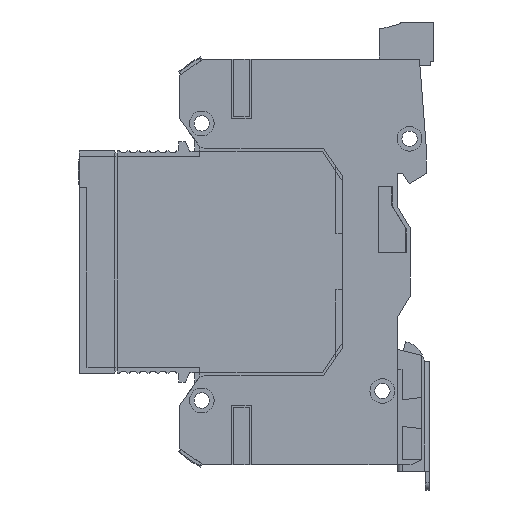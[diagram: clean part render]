
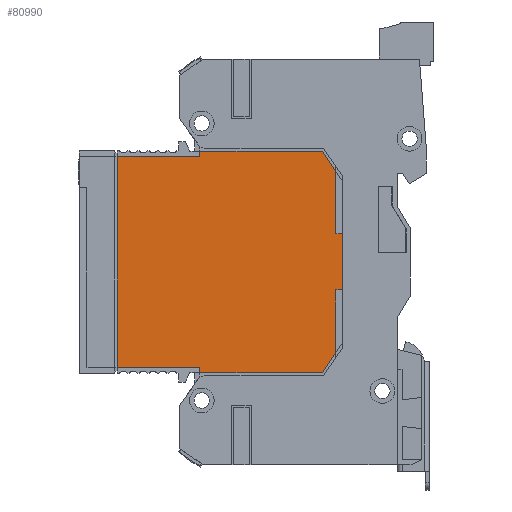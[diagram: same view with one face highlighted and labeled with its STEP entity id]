
A CAD part, left-side view. The second image highlights one B-rep face of the part: STEP entity #80990.
In plain terms, the highlighted planar face has unit normal (-1, 0, 0) as drawn and (0, -1, 0) by its records, which use the part's own axes.
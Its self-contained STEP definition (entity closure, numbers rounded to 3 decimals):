
#2383 = CARTESIAN_POINT ( 'NONE',  ( 0., 0., 0. ) ) ;
#7026 = VERTEX_POINT ( 'NONE', #30705 ) ;
#9236 = EDGE_CURVE ( 'NONE', #7026, #21747, #46483, .T. ) ;
#11044 = CARTESIAN_POINT ( 'NONE',  ( -21.3, 0., 25.15 ) ) ;
#14359 = DIRECTION ( 'NONE',  ( 0., 0., 1. ) ) ;
#16368 = VECTOR ( 'NONE', #14359, 1000. ) ;
#17955 = EDGE_CURVE ( 'NONE', #75193, #58470, #109535, .T. ) ;
#19041 = DIRECTION ( 'NONE',  ( 0., 0., 1. ) ) ;
#19133 = CARTESIAN_POINT ( 'NONE',  ( -22.4, 0., 22.45 ) ) ;
#20249 = CARTESIAN_POINT ( 'NONE',  ( -21.3, 0., -19.05 ) ) ;
#21747 = VERTEX_POINT ( 'NONE', #126690 ) ;
#23295 = CARTESIAN_POINT ( 'NONE',  ( 5.65, 0., 25.15 ) ) ;
#24598 = DIRECTION ( 'NONE',  ( 1., 0., 0. ) ) ;
#27894 = CARTESIAN_POINT ( 'NONE',  ( -21.3, 0., -25.15 ) ) ;
#28642 = CARTESIAN_POINT ( 'NONE',  ( -22.4, 0., 22.45 ) ) ;
#30705 = CARTESIAN_POINT ( 'NONE',  ( -5.65, 0., 26.55 ) ) ;
#31913 = VERTEX_POINT ( 'NONE', #115959 ) ;
#32686 = DIRECTION ( 'NONE',  ( 0., 0., -1. ) ) ;
#33957 = CARTESIAN_POINT ( 'NONE',  ( 21.3, 0., -2.35 ) ) ;
#34188 = VERTEX_POINT ( 'NONE', #28642 ) ;
#34837 = VECTOR ( 'NONE', #109020, 1000. ) ;
#35329 = VECTOR ( 'NONE', #117258, 1000. ) ;
#37586 = FACE_OUTER_BOUND ( 'NONE', #107148, .T. ) ;
#38396 = ORIENTED_EDGE ( 'NONE', *, *, #135819, .T. ) ;
#39295 = CARTESIAN_POINT ( 'NONE',  ( -18.3, 0., 25.15 ) ) ;
#42340 = DIRECTION ( 'NONE',  ( 1., 0., 0. ) ) ;
#42648 = ORIENTED_EDGE ( 'NONE', *, *, #117862, .F. ) ;
#42872 = VECTOR ( 'NONE', #19041, 1000. ) ;
#46302 = CARTESIAN_POINT ( 'NONE',  ( -21.3, 0., -19.05 ) ) ;
#46483 = LINE ( 'NONE', #131048, #34837 ) ;
#47282 = CARTESIAN_POINT ( 'NONE',  ( -22.4, 0., -2.35 ) ) ;
#48426 = VECTOR ( 'NONE', #59078, 1000. ) ;
#48630 = CARTESIAN_POINT ( 'NONE',  ( 5.65, 0., 26.55 ) ) ;
#48867 = CARTESIAN_POINT ( 'NONE',  ( 22.4, 0., 22.45 ) ) ;
#49471 = EDGE_CURVE ( 'NONE', #31913, #99761, #59673, .T. ) ;
#50197 = VERTEX_POINT ( 'NONE', #47282 ) ;
#50838 = EDGE_CURVE ( 'NONE', #34188, #95331, #121155, .T. ) ;
#52162 = CARTESIAN_POINT ( 'NONE',  ( -22.4, 0., -2.35 ) ) ;
#57098 = VERTEX_POINT ( 'NONE', #130061 ) ;
#58232 = VERTEX_POINT ( 'NONE', #119886 ) ;
#58470 = VERTEX_POINT ( 'NONE', #60912 ) ;
#59078 = DIRECTION ( 'NONE',  ( -1., 0., 0. ) ) ;
#59356 = VECTOR ( 'NONE', #91367, 1000. ) ;
#59673 = LINE ( 'NONE', #23295, #16368 ) ;
#60912 = CARTESIAN_POINT ( 'NONE',  ( 22.4, 0., 22.45 ) ) ;
#61894 = DIRECTION ( 'NONE',  ( 0., 0., 1. ) ) ;
#66372 = VECTOR ( 'NONE', #32686, 1000. ) ;
#66684 = LINE ( 'NONE', #11044, #91821 ) ;
#68085 = PLANE ( 'NONE',  #116663 ) ;
#68948 = VERTEX_POINT ( 'NONE', #119872 ) ;
#69364 = CARTESIAN_POINT ( 'NONE',  ( 21.3, 0., -19.05 ) ) ;
#73527 = DIRECTION ( 'NONE',  ( 1., 0., 0. ) ) ;
#74097 = ORIENTED_EDGE ( 'NONE', *, *, #90501, .F. ) ;
#74309 = EDGE_CURVE ( 'NONE', #58470, #57098, #128447, .T. ) ;
#75193 = VERTEX_POINT ( 'NONE', #120670 ) ;
#75924 = VECTOR ( 'NONE', #24598, 1000. ) ;
#77774 = ORIENTED_EDGE ( 'NONE', *, *, #17955, .F. ) ;
#77965 = DIRECTION ( 'NONE',  ( 0., 1., 0. ) ) ;
#80990 = ADVANCED_FACE ( 'NONE', ( #37586 ), #68085, .F. ) ;
#82275 = EDGE_CURVE ( 'NONE', #112026, #58232, #124786, .T. ) ;
#82278 = VECTOR ( 'NONE', #124940, 1000. ) ;
#83301 = CARTESIAN_POINT ( 'NONE',  ( -21.3, 0., 25.15 ) ) ;
#85266 = LINE ( 'NONE', #52162, #100287 ) ;
#85920 = CARTESIAN_POINT ( 'NONE',  ( 21.3, 0., -25.15 ) ) ;
#87615 = ORIENTED_EDGE ( 'NONE', *, *, #9236, .T. ) ;
#87822 = DIRECTION ( 'NONE',  ( 0., 0., 1. ) ) ;
#90501 = EDGE_CURVE ( 'NONE', #68948, #136612, #133973, .T. ) ;
#91039 = VECTOR ( 'NONE', #115453, 1000. ) ;
#91367 = DIRECTION ( 'NONE',  ( 0.835, 0., -0.55 ) ) ;
#91821 = VECTOR ( 'NONE', #42340, 1000. ) ;
#95331 = VERTEX_POINT ( 'NONE', #39295 ) ;
#95486 = ORIENTED_EDGE ( 'NONE', *, *, #118054, .F. ) ;
#99761 = VERTEX_POINT ( 'NONE', #48630 ) ;
#100287 = VECTOR ( 'NONE', #61894, 1000. ) ;
#100882 = ORIENTED_EDGE ( 'NONE', *, *, #126082, .F. ) ;
#101171 = LINE ( 'NONE', #33957, #75924 ) ;
#101894 = LINE ( 'NONE', #121298, #48426 ) ;
#105518 = LINE ( 'NONE', #137171, #133588 ) ;
#107148 = EDGE_LOOP ( 'NONE', ( #127791, #100882, #74097, #123361, #121781, #77774, #118681, #123421, #120524, #87615, #95486, #131932, #42648, #38396 ) ) ;
#109020 = DIRECTION ( 'NONE',  ( 0., 0., -1. ) ) ;
#109535 = LINE ( 'NONE', #48867, #59356 ) ;
#110058 = EDGE_CURVE ( 'NONE', #68948, #57098, #101171, .T. ) ;
#112026 = VERTEX_POINT ( 'NONE', #46302 ) ;
#113866 = DIRECTION ( 'NONE',  ( 0.835, 0., 0.55 ) ) ;
#115453 = DIRECTION ( 'NONE',  ( -1., 0., 0. ) ) ;
#115959 = CARTESIAN_POINT ( 'NONE',  ( 5.65, 0., 25.15 ) ) ;
#116663 = AXIS2_PLACEMENT_3D ( 'NONE', #2383, #77965, #87822 ) ;
#117258 = DIRECTION ( 'NONE',  ( 0., 0., -1. ) ) ;
#117862 = EDGE_CURVE ( 'NONE', #50197, #34188, #85266, .T. ) ;
#118054 = EDGE_CURVE ( 'NONE', #95331, #21747, #66684, .T. ) ;
#118681 = ORIENTED_EDGE ( 'NONE', *, *, #122028, .F. ) ;
#119425 = LINE ( 'NONE', #20249, #91039 ) ;
#119872 = CARTESIAN_POINT ( 'NONE',  ( 21.3, 0., -2.35 ) ) ;
#119886 = CARTESIAN_POINT ( 'NONE',  ( -21.3, 0., -2.35 ) ) ;
#120524 = ORIENTED_EDGE ( 'NONE', *, *, #135548, .T. ) ;
#120670 = CARTESIAN_POINT ( 'NONE',  ( 18.3, 0., 25.15 ) ) ;
#120764 = LINE ( 'NONE', #83301, #82278 ) ;
#121155 = LINE ( 'NONE', #19133, #127932 ) ;
#121298 = CARTESIAN_POINT ( 'NONE',  ( -5.65, 0., 26.55 ) ) ;
#121781 = ORIENTED_EDGE ( 'NONE', *, *, #74309, .F. ) ;
#122028 = EDGE_CURVE ( 'NONE', #31913, #75193, #120764, .T. ) ;
#123361 = ORIENTED_EDGE ( 'NONE', *, *, #110058, .T. ) ;
#123421 = ORIENTED_EDGE ( 'NONE', *, *, #49471, .T. ) ;
#124786 = LINE ( 'NONE', #27894, #42872 ) ;
#124940 = DIRECTION ( 'NONE',  ( 1., 0., 0. ) ) ;
#126082 = EDGE_CURVE ( 'NONE', #136612, #112026, #119425, .T. ) ;
#126690 = CARTESIAN_POINT ( 'NONE',  ( -5.65, 0., 25.15 ) ) ;
#127791 = ORIENTED_EDGE ( 'NONE', *, *, #82275, .F. ) ;
#127932 = VECTOR ( 'NONE', #113866, 1000. ) ;
#128447 = LINE ( 'NONE', #129346, #66372 ) ;
#129346 = CARTESIAN_POINT ( 'NONE',  ( 22.4, 0., -2.35 ) ) ;
#130061 = CARTESIAN_POINT ( 'NONE',  ( 22.4, 0., -2.35 ) ) ;
#131048 = CARTESIAN_POINT ( 'NONE',  ( -5.65, 0., 25.15 ) ) ;
#131932 = ORIENTED_EDGE ( 'NONE', *, *, #50838, .F. ) ;
#133588 = VECTOR ( 'NONE', #73527, 1000. ) ;
#133973 = LINE ( 'NONE', #85920, #35329 ) ;
#135548 = EDGE_CURVE ( 'NONE', #99761, #7026, #101894, .T. ) ;
#135819 = EDGE_CURVE ( 'NONE', #50197, #58232, #105518, .T. ) ;
#136612 = VERTEX_POINT ( 'NONE', #69364 ) ;
#137171 = CARTESIAN_POINT ( 'NONE',  ( -21.3, 0., -2.35 ) ) ;
